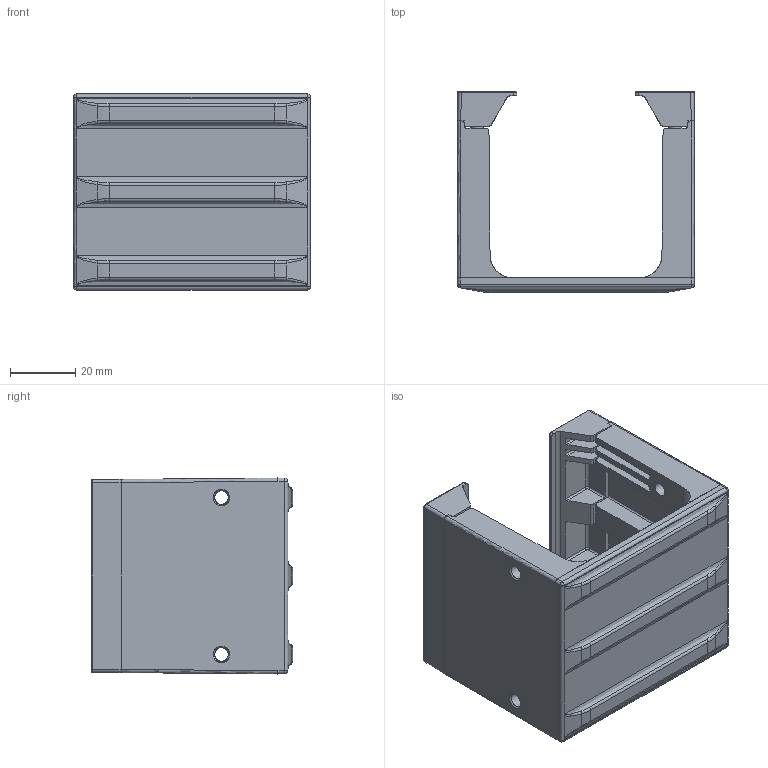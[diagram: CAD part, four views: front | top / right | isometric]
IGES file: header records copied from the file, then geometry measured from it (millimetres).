
Global section: file name: C:\Users\lrossetti\Desktop\Nuova cartella\DSD-0589.igs; native system: NX V7.5; preprocessor: SIEMENS PLM Software NX 7.5; date: 20131001.093916; units: millimetre
Bounding box: 72.5 x 61.65 x 60 mm (x, y, z)
Surface area: 35386.8 mm2 (no closed solid volume)
Topology: 0 solids, 0 shells, 429 faces, 2405 edges, 2391 vertices
Faces by surface type: bspline 429
